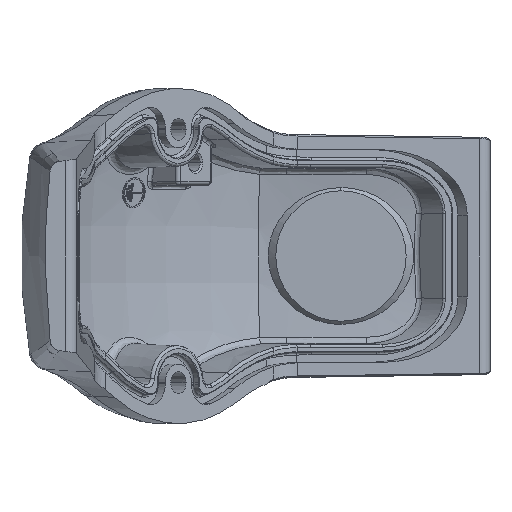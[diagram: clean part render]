
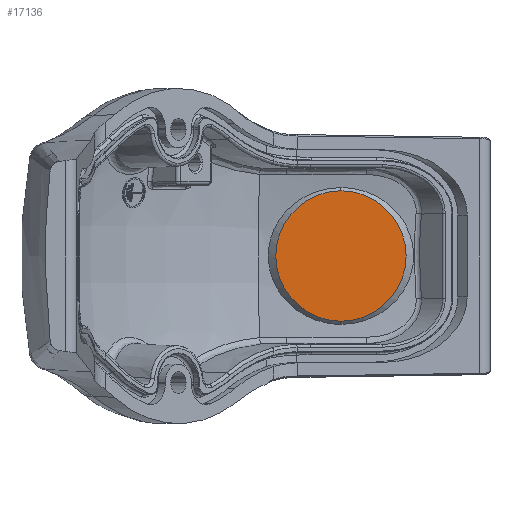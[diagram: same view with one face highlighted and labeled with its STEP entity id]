
A CAD part, front view. The second image highlights one B-rep face of the part: STEP entity #17136.
In plain terms, the highlighted planar face has unit normal (0, -1, 0).
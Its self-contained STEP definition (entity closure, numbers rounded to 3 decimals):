
#296 = VERTEX_POINT ( 'NONE', #4876 ) ;
#411 = CARTESIAN_POINT ( 'NONE',  ( -48.3, 129., 0. ) ) ;
#1506 = EDGE_CURVE ( 'NONE', #6413, #296, #10830, .T. ) ;
#2248 = DIRECTION ( 'NONE',  ( 0., 0., 1. ) ) ;
#4876 = CARTESIAN_POINT ( 'NONE',  ( -48.3, 129., 17.5 ) ) ;
#4996 = PLANE ( 'NONE',  #5649 ) ;
#5278 = CARTESIAN_POINT ( 'NONE',  ( -48.3, 129., 0. ) ) ;
#5649 = AXIS2_PLACEMENT_3D ( 'NONE', #6484, #17300, #6790 ) ;
#6413 = VERTEX_POINT ( 'NONE', #22308 ) ;
#6484 = CARTESIAN_POINT ( 'NONE',  ( -48.3, 129., 0. ) ) ;
#6764 = EDGE_LOOP ( 'NONE', ( #15018, #22767 ) ) ;
#6790 = DIRECTION ( 'NONE',  ( 0., 0., 1. ) ) ;
#9199 = AXIS2_PLACEMENT_3D ( 'NONE', #411, #12873, #2248 ) ;
#9379 = DIRECTION ( 'NONE',  ( 0., 0., 1. ) ) ;
#10830 = CIRCLE ( 'NONE', #21613, 17.5 ) ;
#12873 = DIRECTION ( 'NONE',  ( 0., -1., 0. ) ) ;
#13518 = EDGE_CURVE ( 'NONE', #296, #6413, #18348, .T. ) ;
#15018 = ORIENTED_EDGE ( 'NONE', *, *, #13518, .T. ) ;
#17136 = ADVANCED_FACE ( 'NONE', ( #21256 ), #4996, .F. ) ;
#17300 = DIRECTION ( 'NONE',  ( 0., 1., 0. ) ) ;
#17868 = DIRECTION ( 'NONE',  ( 0., -1., 0. ) ) ;
#18348 = CIRCLE ( 'NONE', #9199, 17.5 ) ;
#21256 = FACE_OUTER_BOUND ( 'NONE', #6764, .T. ) ;
#21613 = AXIS2_PLACEMENT_3D ( 'NONE', #5278, #17868, #9379 ) ;
#22308 = CARTESIAN_POINT ( 'NONE',  ( -48.3, 129., -17.5 ) ) ;
#22767 = ORIENTED_EDGE ( 'NONE', *, *, #1506, .T. ) ;
